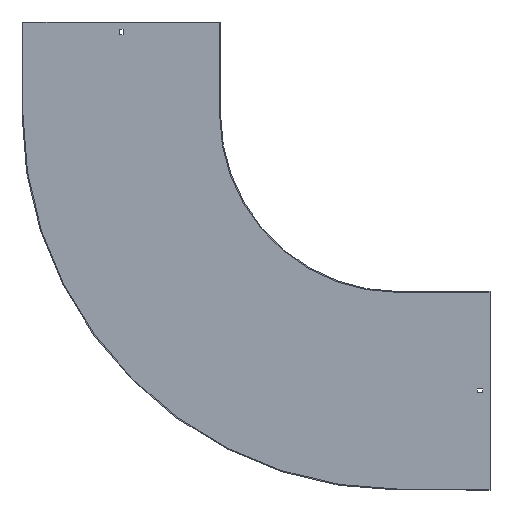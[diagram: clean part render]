
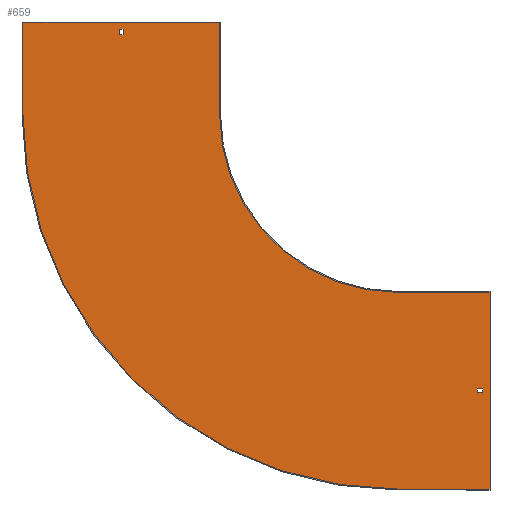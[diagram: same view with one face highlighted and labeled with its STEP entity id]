
A CAD part, front view. The second image highlights one B-rep face of the part: STEP entity #659.
In plain terms, the highlighted planar face has unit normal (0, -1, 0).
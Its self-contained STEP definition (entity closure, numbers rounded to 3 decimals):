
#19 = ORIENTED_EDGE ( 'NONE', *, *, #788, .F. ) ;
#31 = VERTEX_POINT ( 'NONE', #59 ) ;
#34 = CARTESIAN_POINT ( 'NONE',  ( -611.5, -1.5, 150. ) ) ;
#50 = PLANE ( 'NONE',  #328 ) ;
#58 = VECTOR ( 'NONE', #695, 1000. ) ;
#59 = CARTESIAN_POINT ( 'NONE',  ( 0., -1.5, -610. ) ) ;
#81 = VECTOR ( 'NONE', #558, 1000. ) ;
#82 = ORIENTED_EDGE ( 'NONE', *, *, #277, .F. ) ;
#85 = DIRECTION ( 'NONE',  ( -1., 0., 0. ) ) ;
#89 = DIRECTION ( 'NONE',  ( -1., 0., 0. ) ) ;
#90 = EDGE_CURVE ( 'NONE', #752, #162, #725, .T. ) ;
#91 = LINE ( 'NONE', #632, #182 ) ;
#94 = DIRECTION ( 'NONE',  ( 1., 0., 0. ) ) ;
#102 = ORIENTED_EDGE ( 'NONE', *, *, #693, .F. ) ;
#105 = EDGE_CURVE ( 'NONE', #31, #274, #813, .T. ) ;
#110 = LINE ( 'NONE', #385, #297 ) ;
#117 = ORIENTED_EDGE ( 'NONE', *, *, #770, .F. ) ;
#128 = DIRECTION ( 'NONE',  ( 0., -1., 0. ) ) ;
#141 = CARTESIAN_POINT ( 'NONE',  ( -290., -1.5, 150. ) ) ;
#153 = VECTOR ( 'NONE', #612, 1000. ) ;
#155 = LINE ( 'NONE', #439, #81 ) ;
#159 = EDGE_CURVE ( 'NONE', #661, #600, #601, .T. ) ;
#162 = VERTEX_POINT ( 'NONE', #422 ) ;
#167 = ORIENTED_EDGE ( 'NONE', *, *, #415, .T. ) ;
#172 = CARTESIAN_POINT ( 'NONE',  ( 129., -1.5, -453.25 ) ) ;
#182 = VECTOR ( 'NONE', #575, 1000. ) ;
#187 = VERTEX_POINT ( 'NONE', #141 ) ;
#196 = AXIS2_PLACEMENT_3D ( 'NONE', #729, #128, #796 ) ;
#202 = VERTEX_POINT ( 'NONE', #830 ) ;
#217 = CARTESIAN_POINT ( 'NONE',  ( -446.75, -1.5, 138. ) ) ;
#232 = CARTESIAN_POINT ( 'NONE',  ( 0., -1.5, -446.75 ) ) ;
#246 = CARTESIAN_POINT ( 'NONE',  ( -290., -1.5, 0. ) ) ;
#249 = EDGE_CURVE ( 'NONE', #600, #666, #301, .T. ) ;
#250 = CARTESIAN_POINT ( 'NONE',  ( -446.75, -1.5, 129. ) ) ;
#255 = FACE_BOUND ( 'NONE', #791, .T. ) ;
#256 = VERTEX_POINT ( 'NONE', #372 ) ;
#264 = VECTOR ( 'NONE', #537, 1000. ) ;
#274 = VERTEX_POINT ( 'NONE', #465 ) ;
#277 = EDGE_CURVE ( 'NONE', #504, #202, #587, .T. ) ;
#281 = CARTESIAN_POINT ( 'NONE',  ( 0., -1.5, -290. ) ) ;
#287 = EDGE_CURVE ( 'NONE', #162, #319, #471, .T. ) ;
#293 = VERTEX_POINT ( 'NONE', #863 ) ;
#297 = VECTOR ( 'NONE', #653, 1000. ) ;
#298 = CARTESIAN_POINT ( 'NONE',  ( -290., -1.5, 150. ) ) ;
#301 = LINE ( 'NONE', #761, #576 ) ;
#304 = DIRECTION ( 'NONE',  ( 1., 0., 0. ) ) ;
#315 = VECTOR ( 'NONE', #627, 1000. ) ;
#319 = VERTEX_POINT ( 'NONE', #410 ) ;
#325 = CARTESIAN_POINT ( 'NONE',  ( -453.25, -1.5, 138. ) ) ;
#328 = AXIS2_PLACEMENT_3D ( 'NONE', #582, #846, #454 ) ;
#331 = EDGE_CURVE ( 'NONE', #202, #421, #747, .T. ) ;
#353 = LINE ( 'NONE', #608, #153 ) ;
#359 = ORIENTED_EDGE ( 'NONE', *, *, #475, .F. ) ;
#363 = CARTESIAN_POINT ( 'NONE',  ( 150., -1.5, -610. ) ) ;
#372 = CARTESIAN_POINT ( 'NONE',  ( -610., -1.5, 150. ) ) ;
#385 = CARTESIAN_POINT ( 'NONE',  ( -446.75, -1.5, 0. ) ) ;
#395 = CARTESIAN_POINT ( 'NONE',  ( 0., -1.5, -453.25 ) ) ;
#402 = DIRECTION ( 'NONE',  ( 0., 0., 1. ) ) ;
#404 = ORIENTED_EDGE ( 'NONE', *, *, #105, .F. ) ;
#410 = CARTESIAN_POINT ( 'NONE',  ( 138., -1.5, -446.75 ) ) ;
#415 = EDGE_CURVE ( 'NONE', #572, #661, #417, .T. ) ;
#417 = LINE ( 'NONE', #676, #812 ) ;
#419 = VECTOR ( 'NONE', #89, 1000. ) ;
#421 = VERTEX_POINT ( 'NONE', #430 ) ;
#422 = CARTESIAN_POINT ( 'NONE',  ( 138., -1.5, -453.25 ) ) ;
#430 = CARTESIAN_POINT ( 'NONE',  ( 150., -1.5, -290. ) ) ;
#432 = LINE ( 'NONE', #232, #58 ) ;
#438 = AXIS2_PLACEMENT_3D ( 'NONE', #709, #845, #453 ) ;
#439 = CARTESIAN_POINT ( 'NONE',  ( 129., -1.5, 0. ) ) ;
#443 = ORIENTED_EDGE ( 'NONE', *, *, #90, .F. ) ;
#449 = FACE_OUTER_BOUND ( 'NONE', #683, .T. ) ;
#453 = DIRECTION ( 'NONE',  ( 0., 0., -1. ) ) ;
#454 = DIRECTION ( 'NONE',  ( 0., 0., -1. ) ) ;
#462 = ORIENTED_EDGE ( 'NONE', *, *, #287, .F. ) ;
#465 = CARTESIAN_POINT ( 'NONE',  ( -610., -1.5, 0. ) ) ;
#466 = VECTOR ( 'NONE', #304, 1000. ) ;
#471 = LINE ( 'NONE', #733, #677 ) ;
#475 = EDGE_CURVE ( 'NONE', #293, #31, #570, .T. ) ;
#482 = CARTESIAN_POINT ( 'NONE',  ( -453.25, -1.5, 0. ) ) ;
#504 = VERTEX_POINT ( 'NONE', #246 ) ;
#520 = DIRECTION ( 'NONE',  ( 1., 0., 0. ) ) ;
#521 = CARTESIAN_POINT ( 'NONE',  ( -453.25, -1.5, 129. ) ) ;
#537 = DIRECTION ( 'NONE',  ( 1., 0., 0. ) ) ;
#558 = DIRECTION ( 'NONE',  ( 0., 0., -1. ) ) ;
#570 = LINE ( 'NONE', #363, #419 ) ;
#572 = VERTEX_POINT ( 'NONE', #250 ) ;
#575 = DIRECTION ( 'NONE',  ( 0., 0., 1. ) ) ;
#576 = VECTOR ( 'NONE', #94, 1000. ) ;
#579 = VECTOR ( 'NONE', #520, 1000. ) ;
#582 = CARTESIAN_POINT ( 'NONE',  ( 0., -1.5, 0. ) ) ;
#587 = CIRCLE ( 'NONE', #196, 290. ) ;
#600 = VERTEX_POINT ( 'NONE', #325 ) ;
#601 = LINE ( 'NONE', #482, #781 ) ;
#608 = CARTESIAN_POINT ( 'NONE',  ( 150., -1.5, -288.5 ) ) ;
#612 = DIRECTION ( 'NONE',  ( 0., 0., -1. ) ) ;
#618 = ORIENTED_EDGE ( 'NONE', *, *, #159, .T. ) ;
#622 = LINE ( 'NONE', #34, #466 ) ;
#627 = DIRECTION ( 'NONE',  ( 0., 0., -1. ) ) ;
#632 = CARTESIAN_POINT ( 'NONE',  ( -610., -1.5, 0. ) ) ;
#633 = ORIENTED_EDGE ( 'NONE', *, *, #249, .T. ) ;
#634 = EDGE_CURVE ( 'NONE', #666, #572, #110, .T. ) ;
#653 = DIRECTION ( 'NONE',  ( 0., 0., -1. ) ) ;
#659 = ADVANCED_FACE ( 'NONE', ( #255, #449, #710 ), #50, .T. ) ;
#661 = VERTEX_POINT ( 'NONE', #521 ) ;
#666 = VERTEX_POINT ( 'NONE', #217 ) ;
#676 = CARTESIAN_POINT ( 'NONE',  ( 0., -1.5, 129. ) ) ;
#677 = VECTOR ( 'NONE', #402, 1000. ) ;
#683 = EDGE_LOOP ( 'NONE', ( #19, #117, #404, #359, #102, #804, #82, #844 ) ) ;
#693 = EDGE_CURVE ( 'NONE', #421, #293, #353, .T. ) ;
#695 = DIRECTION ( 'NONE',  ( -1., 0., 0. ) ) ;
#709 = CARTESIAN_POINT ( 'NONE',  ( 0., -1.5, 0. ) ) ;
#710 = FACE_BOUND ( 'NONE', #764, .T. ) ;
#712 = ORIENTED_EDGE ( 'NONE', *, *, #634, .T. ) ;
#723 = VERTEX_POINT ( 'NONE', #797 ) ;
#725 = LINE ( 'NONE', #395, #579 ) ;
#729 = CARTESIAN_POINT ( 'NONE',  ( 0., -1.5, 0. ) ) ;
#731 = ORIENTED_EDGE ( 'NONE', *, *, #832, .F. ) ;
#732 = ORIENTED_EDGE ( 'NONE', *, *, #816, .F. ) ;
#733 = CARTESIAN_POINT ( 'NONE',  ( 138., -1.5, 0. ) ) ;
#747 = LINE ( 'NONE', #281, #264 ) ;
#752 = VERTEX_POINT ( 'NONE', #172 ) ;
#761 = CARTESIAN_POINT ( 'NONE',  ( 0., -1.5, 138. ) ) ;
#764 = EDGE_LOOP ( 'NONE', ( #633, #712, #167, #618 ) ) ;
#770 = EDGE_CURVE ( 'NONE', #274, #256, #91, .T. ) ;
#781 = VECTOR ( 'NONE', #861, 1000. ) ;
#788 = EDGE_CURVE ( 'NONE', #256, #187, #622, .T. ) ;
#791 = EDGE_LOOP ( 'NONE', ( #732, #462, #443, #731 ) ) ;
#796 = DIRECTION ( 'NONE',  ( 0., 0., -1. ) ) ;
#797 = CARTESIAN_POINT ( 'NONE',  ( 129., -1.5, -446.75 ) ) ;
#804 = ORIENTED_EDGE ( 'NONE', *, *, #331, .F. ) ;
#812 = VECTOR ( 'NONE', #85, 1000. ) ;
#813 = CIRCLE ( 'NONE', #438, 610. ) ;
#816 = EDGE_CURVE ( 'NONE', #319, #723, #432, .T. ) ;
#825 = LINE ( 'NONE', #298, #315 ) ;
#830 = CARTESIAN_POINT ( 'NONE',  ( 0., -1.5, -290. ) ) ;
#832 = EDGE_CURVE ( 'NONE', #723, #752, #155, .T. ) ;
#844 = ORIENTED_EDGE ( 'NONE', *, *, #851, .F. ) ;
#845 = DIRECTION ( 'NONE',  ( 0., 1., 0. ) ) ;
#846 = DIRECTION ( 'NONE',  ( 0., -1., 0. ) ) ;
#851 = EDGE_CURVE ( 'NONE', #187, #504, #825, .T. ) ;
#861 = DIRECTION ( 'NONE',  ( 0., 0., 1. ) ) ;
#863 = CARTESIAN_POINT ( 'NONE',  ( 150., -1.5, -610. ) ) ;
